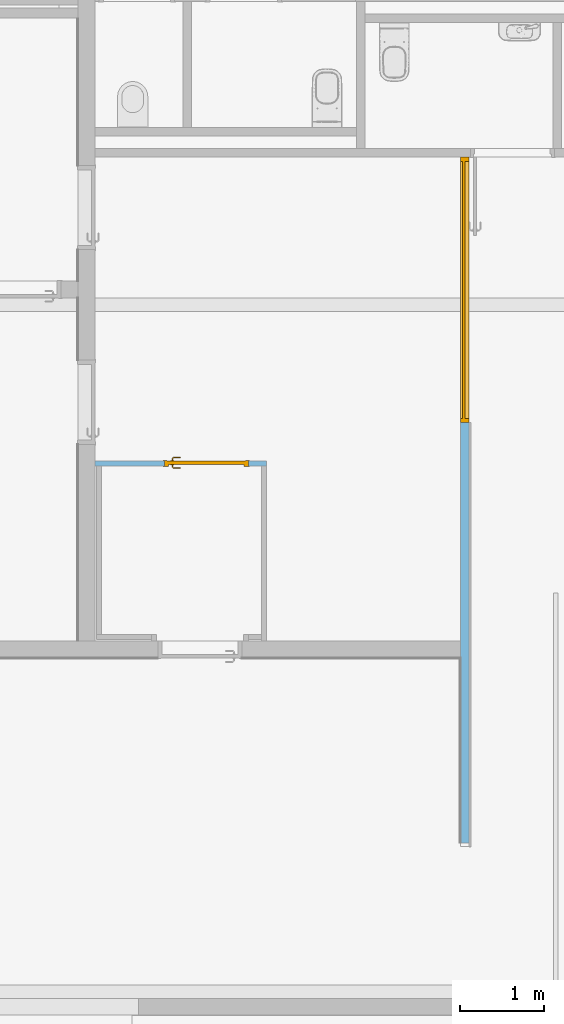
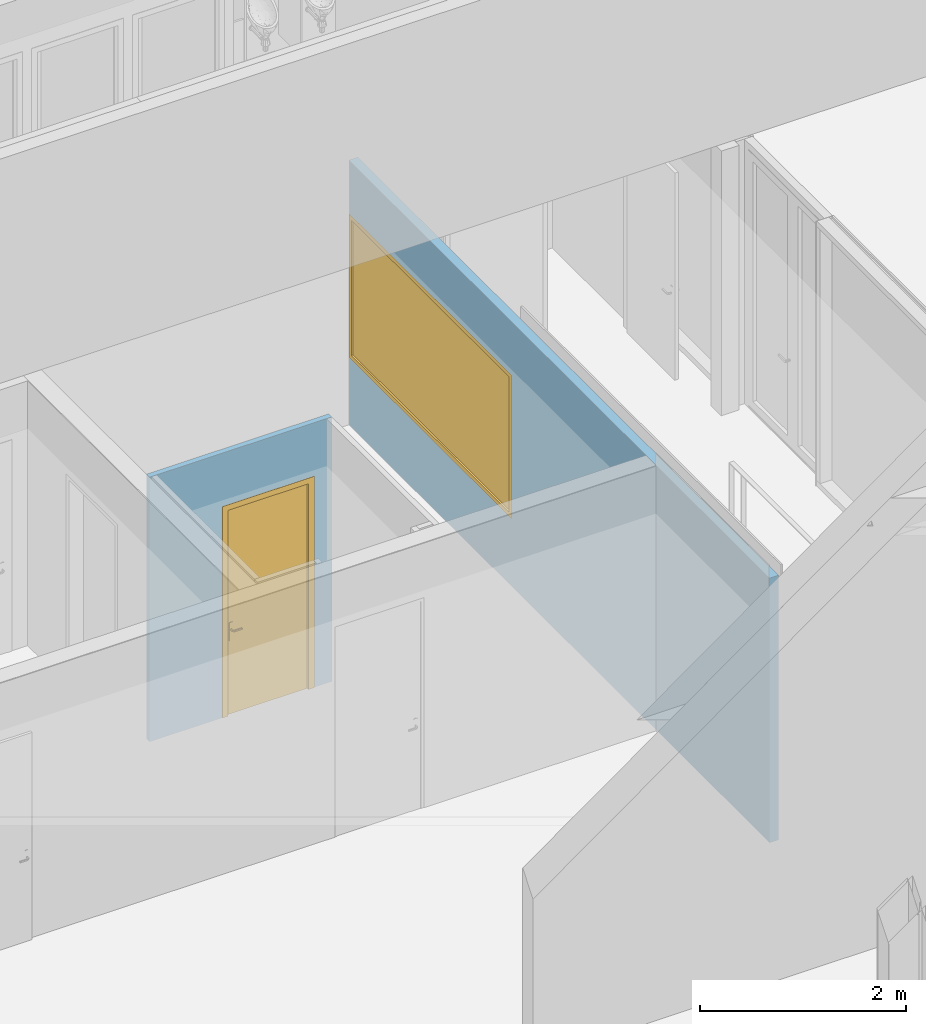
# One storey, part 191 of 240: 1 door, 1 window, 2 openings, plus 2 elements that do not belong to this part.
"""IFC2X3 building model written with IfcOpenShell, lengths in centimetres."""

from ifc_helpers import new_model, entity, si_unit, converted_unit, derived_unit, direction, frame, frame_2d, origin, place, context, subcontext, project, spatial, rectangle, extrude, faceted_brep, source, transform, mapped, material, material_list, layer, layer_set, layer_usage, type_object, type_shapes, element, fill, save


model = new_model("IFC2X3")

# Units and contexts
model_context = context("Model", 3, precision=0.001, world=origin(), true_north=direction((6.12303176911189e-17, 1.0)))
body_context = subcontext(model_context, "Body", "Model", "MODEL_VIEW")
ifc_project = project(units=[si_unit("LENGTHUNIT", "METRE", prefix="CENTI"), si_unit("AREAUNIT", "SQUARE_METRE"), si_unit("VOLUMEUNIT", "CUBIC_METRE"), converted_unit("PLANEANGLEUNIT", "DEGREE", entity("IfcRatioMeasure", 0.0174532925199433), si_unit("PLANEANGLEUNIT", "RADIAN"), dimensions=[0, 0, 0, 0, 0, 0, 0]), si_unit("MASSUNIT", "GRAM", prefix="KILO"), derived_unit("MASSDENSITYUNIT", [(si_unit("MASSUNIT", "GRAM", prefix="KILO"), 1), (si_unit("LENGTHUNIT", "METRE"), -3)]), si_unit("TIMEUNIT", "SECOND"), si_unit("FREQUENCYUNIT", "HERTZ"), si_unit("THERMODYNAMICTEMPERATUREUNIT", "DEGREE_CELSIUS"), derived_unit("THERMALTRANSMITTANCEUNIT", [(si_unit("MASSUNIT", "GRAM", prefix="KILO"), 1), (si_unit("THERMODYNAMICTEMPERATUREUNIT", "KELVIN"), -1), (si_unit("TIMEUNIT", "SECOND"), -3)]), derived_unit("VOLUMETRICFLOWRATEUNIT", [(si_unit("LENGTHUNIT", "METRE"), 3), (si_unit("TIMEUNIT", "SECOND"), -1)]), si_unit("ELECTRICCURRENTUNIT", "AMPERE"), si_unit("ELECTRICVOLTAGEUNIT", "VOLT"), si_unit("POWERUNIT", "WATT"), si_unit("FORCEUNIT", "NEWTON", prefix="KILO"), si_unit("ILLUMINANCEUNIT", "LUX"), si_unit("LUMINOUSFLUXUNIT", "LUMEN"), si_unit("LUMINOUSINTENSITYUNIT", "CANDELA"), derived_unit("USERDEFINED", [(si_unit("MASSUNIT", "GRAM", prefix="KILO"), -1), (si_unit("LENGTHUNIT", "METRE"), -2), (si_unit("TIMEUNIT", "SECOND"), 3), (si_unit("LUMINOUSFLUXUNIT", "LUMEN"), 1)]), derived_unit("LINEARVELOCITYUNIT", [(si_unit("LENGTHUNIT", "METRE"), 1), (si_unit("TIMEUNIT", "SECOND"), -1)]), si_unit("PRESSUREUNIT", "PASCAL"), derived_unit("USERDEFINED", [(si_unit("LENGTHUNIT", "METRE"), -2), (si_unit("MASSUNIT", "GRAM", prefix="KILO"), 1), (si_unit("TIMEUNIT", "SECOND"), -2)])], contexts=[model_context])

# Site, building, storey
site_placement = place(None, frame((-2781.94577612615, 7442.24238424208, 0.0)))
site = spatial("IfcSite", under=ifc_project, at=site_placement, Name="Default", CompositionType="ELEMENT")
building_placement = place(site_placement, origin())
building = spatial("IfcBuilding", under=site, at=building_placement, CompositionType="ELEMENT")
storey_placement = place(building_placement, origin())
storey = spatial("IfcBuildingStorey", under=building, at=storey_placement, Name="N00 - COO", CompositionType="ELEMENT", Elevation=0.0)

# Wall, opening, window
ifc_material_1 = material(Name="01 - Enduit/Plâtre")
ifc_layer_1 = layer(ifc_material_1, 1.3)
ifc_material_2 = material(Name="00 - Isolant")
ifc_layer_2 = layer(ifc_material_2, 7.4)
ifc_layer_3 = layer(ifc_material_1, 1.3)
ifc_layer_set_1 = layer_set([ifc_layer_1, ifc_layer_2, ifc_layer_3], Name="Mur de base:06 - cloisons - Ba13 10cm")
ifc_layer_usage_1 = layer_usage(ifc_layer_set_1, "AXIS2", "NEGATIVE", 5.0)
wall_type_1 = type_object("IfcWallType", Name="Mur de base:06 - cloisons - Ba13 10cm", PredefinedType="STANDARD", material=ifc_layer_set_1)
wall_1_placement = place(building_placement, frame((-9236.932180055, -3205.07903364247, 0.0), z_axis=(0.0, 0.0, 1.0), x_axis=(0.0, -1.0, 0.0)))
wall_1 = element("IfcWallStandardCase", 1, at=wall_1_placement, inside=storey, type_object=wall_type_1, material=ifc_layer_usage_1, Name="Mur de base:06 - cloisons - Ba13 10cm", ObjectType="Mur de base:06 - cloisons - Ba13 10cm", context=body_context, shape_type="SweptSolid", body=[
    extrude(rectangle(XDim=815.500000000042, YDim=10.0000000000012, at=frame_2d((407.750000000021, -5.32907051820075e-15), x_axis=(-1.0, 0.0))), origin(), (0.0, 0.0, 1.0), 313.0),
])
opening_1_placement = place(wall_1_placement, frame((0.0, -5.0, 80.0)))
opening_1 = element("IfcOpeningElement", 2, at=opening_1_placement, cuts=wall_1, Name="châssis intérieur vitré:châssis intérieur vitré self  (h=2.22) 2:1", ObjectType="Opening", context=body_context, shape_type="SweptSolid", body=[
    extrude(rectangle(XDim=170.0, YDim=315.692772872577, at=frame_2d((84.9999999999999, 157.846386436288), x_axis=(1.0, 0.0))), frame((0.0, 0.0, 0.0), z_axis=(0.0, 1.0, 0.0), x_axis=(0.0, 0.0, 1.0)), (0.0, 0.0, 1.0), 10.0),
])
ifc_material_3 = material(Name="Verre")
ifc_material_4 = material(Name="huisserie bois")
ifc_material_list_1 = material_list([ifc_material_3, ifc_material_4])
ifc_material_list_2 = material_list([ifc_material_3, ifc_material_4])
window_style = type_object("IfcWindowStyle", Name="châssis intérieur vitré self  (h=2.22) 2", ConstructionType="NOTDEFINED", OperationType="NOTDEFINED", ParameterTakesPrecedence=False, Sizeable=False, material=ifc_material_list_2)
shared_shape_1 = source(origin(), body_context, "Body", "Brep", [
    faceted_brep([(312.692772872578, 5.0, 167.0), (312.692772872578, 5.0, 3.0), (3.0, 5.0, 3.0), (3.0, 5.0, 167.0), (312.692772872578, 2.0, 167.0), (312.692772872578, 2.0, 3.0), (3.0, 2.0, 3.0), (3.0, 2.0, 167.0)], [[[0, 1, 2, 3]], [[1, 0, 4, 5]], [[2, 1, 5, 6]], [[3, 2, 6, 7]], [[4, 7, 6, 5]], [[0, 3, 7, 4]]]),
    faceted_brep([(312.692772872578, 2.0, 167.0), (312.692772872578, 0.0, 167.0), (312.692772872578, 0.0, 3.0), (312.692772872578, 2.0, 3.0), (310.692772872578, 0.0, 5.0), (5.0, 0.0, 5.0), (5.0, 0.0, 165.0), (310.692772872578, 0.0, 165.0), (3.0, 0.0, 167.0), (3.0, 0.0, 3.0), (3.0, 2.0, 3.0), (3.0, 2.0, 167.0), (310.692772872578, 2.0, 165.0), (5.0, 2.0, 165.0), (5.0, 2.0, 5.0), (310.692772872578, 2.0, 5.0)], [[[0, 1, 2, 3]], [[4, 5, 6, 7], [1, 8, 9, 2]], [[3, 2, 9, 10]], [[3, 10, 11, 0], [12, 13, 14, 15]], [[7, 12, 15, 4]], [[4, 15, 14, 5]], [[10, 9, 8, 11]], [[5, 14, 13, 6]], [[11, 8, 1, 0]], [[6, 13, 12, 7]]], outer=[[True], [False, True], [True], [True, False], [True], [True], [True], [True], [True], [True]]),
    faceted_brep([(310.692772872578, 5.0, 165.0), (310.692772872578, 10.0, 165.0), (310.692772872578, 10.0, 5.0), (310.692772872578, 5.0, 5.0), (315.692772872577, 10.0, 0.0), (0.0, 10.0, 0.0), (0.0, 10.0, 170.0), (315.692772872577, 10.0, 170.0), (5.0, 10.0, 165.0), (5.0, 10.0, 5.0), (5.0, 5.0, 5.0), (5.0, 5.0, 165.0), (312.692772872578, 5.0, 167.0), (3.0, 5.0, 167.0), (3.0, 5.0, 3.0), (312.692772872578, 5.0, 3.0), (312.692772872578, 0.0, 167.0), (312.692772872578, 0.0, 3.0), (3.0, 0.0, 3.0), (3.0, 0.0, 167.0), (315.692772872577, 0.0, 170.0), (0.0, 0.0, 170.0), (0.0, 0.0, 0.0), (315.692772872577, 0.0, 0.0)], [[[0, 1, 2, 3]], [[4, 5, 6, 7], [1, 8, 9, 2]], [[3, 2, 9, 10]], [[3, 10, 11, 0], [12, 13, 14, 15]], [[16, 12, 15, 17]], [[17, 15, 14, 18]], [[17, 18, 19, 16], [20, 21, 22, 23]], [[7, 20, 23, 4]], [[4, 23, 22, 5]], [[10, 9, 8, 11]], [[18, 14, 13, 19]], [[5, 22, 21, 6]], [[11, 8, 1, 0]], [[19, 13, 12, 16]], [[6, 21, 20, 7]]], outer=[[True], [True, False], [True], [False, True], [True], [True], [False, True], [True], [True], [True], [True], [True], [True], [True], [True]]),
])
type_shapes(window_style, [shared_shape_1])
window_placement = place(opening_1_placement, origin())
window = element("IfcWindow", 3, at=window_placement, inside=storey, type_object=window_style, material=ifc_material_list_1, Name="châssis intérieur vitré:châssis intérieur vitré self  (h=2.22) 2", ObjectType="châssis intérieur vitré:châssis intérieur vitré self  (h=2.22) 2", OverallHeight=170.0, OverallWidth=315.692772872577, context=body_context, shape_type="MappedRepresentation", body=[
    mapped(shared_shape_1, transform((0.0, 0.0, 0.0), scale=1.0)),
])
fill(opening_1, window)

# Wall, opening, door
ifc_material_5 = material(Name="Plastique, blanc opaque")
ifc_layer_4 = layer(ifc_material_5, 0.2)
ifc_material_6 = material(Name="00 - Isolant cloison Frigo")
ifc_layer_5 = layer(ifc_material_6, 5.6)
ifc_layer_6 = layer(ifc_material_5, 0.2)
ifc_layer_set_2 = layer_set([ifc_layer_4, ifc_layer_5, ifc_layer_6], Name="Mur de base:06 - cloisons - cuisine 6cm")
ifc_layer_usage_2 = layer_usage(ifc_layer_set_2, "AXIS2", "NEGATIVE", 3.0)
wall_type_2 = type_object("IfcWallType", Name="Mur de base:06 - cloisons - cuisine 6cm", PredefinedType="STANDARD", material=ifc_layer_set_2)
wall_2_placement = place(building_placement, frame((-9677.0, -3569.51217637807, 0.0)))
wall_2 = element("IfcWallStandardCase", 4, at=wall_2_placement, inside=storey, type_object=wall_type_2, material=ifc_layer_usage_2, Name="Mur de base:06 - cloisons - cuisine 6cm", ObjectType="Mur de base:06 - cloisons - cuisine 6cm", context=body_context, shape_type="SweptSolid", body=[
    extrude(rectangle(XDim=203.974749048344, YDim=6.00000000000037, at=frame_2d((101.987374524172, -8.79296635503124e-14), x_axis=(-1.0, 0.0))), origin(), (0.0, 0.0, 1.0), 313.0),
])
opening_2_placement = place(wall_2_placement, frame((82.5824443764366, -3.0, 0.0)))
opening_2 = element("IfcOpeningElement", 5, at=opening_2_placement, cuts=wall_2, Name="Int. Simple:PP simple (0.93m x 2.50m):1", ObjectType="Opening", context=body_context, shape_type="SweptSolid", body=[
    extrude(rectangle(XDim=248.500000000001, YDim=99.9999999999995, at=frame_2d((124.250000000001, 49.9999999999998), x_axis=(1.0, 0.0))), frame((0.0, 0.0, 0.0), z_axis=(0.0, 1.0, 0.0), x_axis=(0.0, 0.0, 1.0)), (0.0, 0.0, 1.0), 6.0),
])
ifc_material_7 = material(Name="Finition Peinture - Blanc satiné")
ifc_material_8 = material(Name="Bois - Panneau de porte")
ifc_material_9 = material(Name="Bois - Cadre de porte")
ifc_material_list_3 = material_list([ifc_material_7, ifc_material_8, ifc_material_9])
ifc_material_list_4 = material_list([ifc_material_7, ifc_material_8, ifc_material_9])
door_style = type_object("IfcDoorStyle", Name="PP simple (0.93m x 2.50m)", ConstructionType="NOTDEFINED", OperationType="SINGLE_SWING_RIGHT", ParameterTakesPrecedence=False, Sizeable=False, material=ifc_material_list_4)
shared_shape_2 = source(origin(), body_context, "Body", "Brep", [
    faceted_brep([(99.5000000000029, -0.500000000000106, 87.0), (99.5000000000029, -0.500000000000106, 108.0), (98.535276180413, -0.500000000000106, 108.399601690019), (97.5000000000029, -0.500000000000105, 108.535898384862), (96.4647238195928, -0.500000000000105, 108.399601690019), (95.500000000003, -0.500000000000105, 108.0), (95.5000000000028, -0.500000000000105, 87.0), (96.4647238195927, -0.500000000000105, 86.6003983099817), (97.5000000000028, -0.500000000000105, 86.464101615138), (98.5352761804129, -0.500000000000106, 86.6003983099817), (99.5000000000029, 0.0, 108.0), (99.5000000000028, 0.0, 87.0), (98.5352761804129, 0.0, 86.6003983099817), (97.5000000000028, 0.0, 86.464101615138), (96.4647238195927, 0.0, 86.6003983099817), (95.5000000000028, 0.0, 87.0), (95.5000000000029, 0.0, 108.0), (96.4647238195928, 0.0, 108.399601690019), (97.5000000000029, 0.0, 108.535898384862), (98.535276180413, 0.0, 108.399601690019)], [[[0, 1, 2, 3, 4, 5, 6, 7, 8, 9]], [[10, 11, 12, 13, 14, 15, 16, 17, 18, 19]], [[9, 12, 11, 0]], [[8, 13, 12, 9]], [[7, 14, 13, 8]], [[7, 6, 15, 14]], [[15, 6, 5, 16]], [[4, 17, 16, 5]], [[3, 18, 17, 4]], [[2, 19, 18, 3]], [[2, 1, 10, 19]], [[11, 10, 1, 0]]]),
    faceted_brep([(99.5000000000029, 4.0, 87.0), (99.5000000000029, 4.0, 108.0), (98.535276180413, 4.0, 108.399601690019), (97.5000000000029, 4.0, 108.535898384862), (96.4647238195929, 4.0, 108.399601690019), (95.500000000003, 4.0, 108.0), (95.5000000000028, 4.0, 87.0), (96.4647238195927, 4.0, 86.6003983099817), (97.5000000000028, 4.0, 86.464101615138), (98.5352761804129, 4.0, 86.6003983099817), (97.5000000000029, 4.49999999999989, 108.535898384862), (98.535276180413, 4.49999999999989, 108.399601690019), (99.5000000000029, 4.49999999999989, 108.0), (99.5000000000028, 4.49999999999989, 87.0), (98.5352761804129, 4.49999999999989, 86.6003983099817), (97.5000000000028, 4.49999999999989, 86.464101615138), (96.4647238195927, 4.49999999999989, 86.6003983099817), (95.5000000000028, 4.49999999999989, 87.0), (95.500000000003, 4.49999999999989, 108.0), (96.4647238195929, 4.49999999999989, 108.399601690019)], [[[0, 1, 2, 3, 4, 5, 6, 7, 8, 9]], [[10, 11, 12, 13, 14, 15, 16, 17, 18, 19]], [[4, 19, 18, 5]], [[3, 10, 19, 4]], [[2, 11, 10, 3]], [[2, 1, 12, 11]], [[13, 12, 1, 0]], [[9, 14, 13, 0]], [[8, 15, 14, 9]], [[7, 16, 15, 8]], [[7, 6, 17, 16]], [[17, 6, 5, 18]]]),
    faceted_brep([(97.2974701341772, -0.50000000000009, 100.778044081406), (97.7025298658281, -0.500000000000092, 100.778044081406), (98.1000000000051, -0.500000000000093, 100.699999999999), (98.100000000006, -0.500000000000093, 99.2999999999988), (97.7025298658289, -0.500000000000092, 99.221955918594), (97.297470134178, -0.50000000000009, 99.2219559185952), (96.9000000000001, -0.500000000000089, 99.3000000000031), (96.9000000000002, -0.500000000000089, 100.7), (97.7025298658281, -3.10045754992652, 100.778044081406), (98.1000000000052, -3.26509507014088, 100.7), (97.2974701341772, -2.93267631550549, 100.778044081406), (95.9298602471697, -4.30028620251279, 100.778044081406), (96.0976414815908, -4.70534593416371, 100.778044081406), (96.9000000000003, -2.76803879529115, 100.7), (96.9000000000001, -2.76803879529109, 99.3000000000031), (97.297470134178, -2.93267631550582, 99.2219559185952), (97.7025298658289, -3.10045754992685, 99.221955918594), (96.0976414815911, -4.70534593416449, 99.221955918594), (95.9298602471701, -4.30028620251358, 99.2219559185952), (98.100000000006, -3.26509507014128, 99.2999999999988), (96.2622790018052, -5.10281606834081, 100.7), (95.7652227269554, -3.90281606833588, 100.7), (95.7652227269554, -3.90281606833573, 99.3000000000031), (96.2622790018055, -5.10281606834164, 99.2999999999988), (87.4981359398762, -5.10281606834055, 100.7), (87.4981359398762, -4.70534593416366, 100.778044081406), (87.4981359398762, -4.30028620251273, 100.778044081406), (87.4981359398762, -3.90281606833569, 100.699999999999), (87.4981359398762, -3.90281606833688, 99.3000000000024), (87.4981359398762, -4.30028620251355, 99.2219559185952), (87.4981359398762, -4.70534593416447, 99.221955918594), (87.4981359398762, -5.10281606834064, 99.2999999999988), (91.7139980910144, -4.5028160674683, 100.78786867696), (92.2692302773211, -5.1028160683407, 100.7), (91.6316793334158, -3.9028160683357, 100.7), (91.631679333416, -3.90281606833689, 99.3000000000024), (91.7139981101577, -4.50281607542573, 99.2121313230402), (92.2692310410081, -5.10281606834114, 99.2999999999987)], [[[0, 1, 2, 3, 4, 5, 6, 7]], [[2, 1, 8, 9]], [[1, 0, 10, 11, 12, 8]], [[0, 7, 13, 10]], [[14, 13, 7, 6]], [[5, 15, 14, 6]], [[5, 4, 16, 17, 18, 15]], [[3, 19, 16, 4]], [[9, 19, 3, 2]], [[9, 8, 12, 20]], [[10, 13, 21, 11]], [[22, 21, 13, 14]], [[14, 15, 18, 22]], [[16, 19, 23, 17]], [[20, 23, 19, 9]], [[24, 25, 26, 27, 28, 29, 30, 31]], [[32, 25, 33]], [[33, 25, 24]], [[33, 20, 12]], [[11, 34, 32]], [[34, 11, 21]], [[27, 26, 34]], [[32, 26, 25]], [[32, 34, 26]], [[32, 33, 12]], [[11, 32, 12]], [[21, 22, 35, 28, 27, 34]], [[36, 29, 35]], [[30, 36, 37]], [[18, 35, 22]], [[29, 28, 35]], [[30, 37, 31]], [[37, 17, 23]], [[36, 17, 37]], [[36, 18, 17]], [[36, 35, 18]], [[29, 36, 30]], [[23, 20, 33, 24, 31, 37]]]),
    faceted_brep([(97.2974701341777, 4.49999999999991, 99.2219559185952), (97.7025298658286, 4.49999999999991, 99.221955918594), (98.1000000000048, 4.4999999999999, 99.2999999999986), (98.1000000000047, 4.4999999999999, 100.7), (97.7025298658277, 4.49999999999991, 100.778044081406), (97.2974701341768, 4.49999999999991, 100.778044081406), (96.8999999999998, 4.49999999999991, 100.7), (96.900000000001, 4.49999999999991, 99.3000000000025), (96.8999999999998, 6.7485204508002, 100.7), (96.8999999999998, 6.74852045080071, 99.3000000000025), (97.2974701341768, 6.91315797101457, 100.778044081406), (97.7025298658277, 7.0809392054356, 100.778044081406), (96.0838906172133, 8.69957845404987, 100.778044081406), (95.9161093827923, 8.29451872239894, 100.778044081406), (98.1000000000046, 7.24557672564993, 100.7), (98.1000000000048, 7.24557672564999, 99.2999999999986), (97.7025298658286, 7.08093920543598, 99.221955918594), (97.2974701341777, 6.91315797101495, 99.2219559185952), (95.9161093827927, 8.29451872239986, 99.2219559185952), (96.0838906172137, 8.69957845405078, 99.221955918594), (95.751471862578, 7.89704858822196, 100.7), (95.7514718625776, 7.89704858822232, 99.3000000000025), (96.2485281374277, 9.09704858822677, 100.7), (96.2485281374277, 9.09704858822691, 99.2999999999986), (87.4954216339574, 8.29451872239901, 100.778044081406), (87.4954216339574, 8.69957845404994, 100.778044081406), (87.4954216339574, 9.09704858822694, 100.7), (87.4954216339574, 9.09704858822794, 99.2999999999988), (87.4954216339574, 8.6995784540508, 99.221955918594), (87.4954216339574, 8.29451872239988, 99.2219559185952), (87.4954216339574, 7.89704858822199, 99.3000000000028), (87.4954216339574, 7.89704858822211, 100.7), (91.6234467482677, 7.89704858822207, 100.7), (91.6234479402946, 7.89704858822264, 99.3000000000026), (91.7057655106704, 8.49704858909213, 100.78786867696), (92.255479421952, 9.09704858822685, 100.7), (92.2554795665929, 9.09704858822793, 99.2999999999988), (91.7057654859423, 8.49704858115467, 99.2121313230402)], [[[0, 1, 2, 3, 4, 5, 6, 7]], [[8, 9, 7, 6]], [[5, 10, 8, 6]], [[5, 4, 11, 12, 13, 10]], [[3, 14, 11, 4]], [[14, 3, 2, 15]], [[2, 1, 16, 15]], [[1, 0, 17, 18, 19, 16]], [[0, 7, 9, 17]], [[20, 21, 9, 8]], [[8, 10, 13, 20]], [[14, 22, 12, 11]], [[23, 22, 14, 15]], [[15, 16, 19, 23]], [[17, 9, 21, 18]], [[24, 25, 26, 27, 28, 29, 30, 31]], [[21, 20, 32, 31, 30, 33]], [[34, 24, 32]], [[25, 34, 35]], [[13, 32, 20]], [[24, 31, 32]], [[25, 35, 26]], [[35, 12, 22]], [[34, 12, 35]], [[34, 13, 12]], [[34, 32, 13]], [[24, 34, 25]], [[22, 23, 36, 27, 26, 35]], [[37, 28, 36]], [[36, 28, 27]], [[36, 23, 19]], [[18, 33, 37]], [[33, 18, 21]], [[30, 29, 33]], [[37, 29, 28]], [[37, 33, 29]], [[37, 36, 19]], [[18, 37, 19]]]),
    faceted_brep([(103.500000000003, 4.0, 245.0), (103.500000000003, 4.0, 0.0), (10.5000000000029, 4.0, 0.0), (10.5000000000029, 4.0, 245.0), (103.500000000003, 0.0, 245.0), (10.5000000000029, 0.0, 245.0), (10.5000000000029, 0.0, 0.0), (103.500000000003, 0.0, 0.0)], [[[0, 1, 2, 3]], [[4, 5, 6, 7]], [[3, 5, 4, 0]], [[2, 6, 5, 3]], [[1, 7, 6, 2]], [[0, 4, 7, 1]]]),
    faceted_brep([(107.0, 6.0, 0.0), (107.0, 0.0, 0.0), (108.500000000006, 0.0, 0.0), (108.500000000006, -0.500000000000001, 0.0), (103.500000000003, -0.500000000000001, 0.0), (103.500000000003, 4.0, 0.0), (102.0, 4.0, 0.0), (102.0, 6.5000000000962, 0.0), (108.500000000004, 6.5000000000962, 0.0), (108.500000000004, 6.0, 0.0), (107.0, 6.0, 248.500000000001), (107.0, 0.0, 248.500000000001), (108.500000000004, 6.0, 250.0), (5.50000000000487, 6.0, 250.0), (5.50000000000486, 6.0, 0.0), (7.0, 6.0, 0.0), (7.0, 6.0, 248.500000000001), (102.0, 4.0, 243.5), (102.0, 6.5000000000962, 243.5), (103.500000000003, 4.0, 245.0), (10.5000000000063, 4.0, 245.0), (10.5000000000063, 4.0, 0.0), (12.0, 4.0, 0.0), (12.0, 4.0, 243.5), (7.0, 0.0, 0.0), (7.0, 0.0, 248.500000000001), (5.50000000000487, 6.5000000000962, 0.0), (12.0, 6.5000000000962, 0.0), (10.5000000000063, -0.500000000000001, 0.0), (5.5000000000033, -0.500000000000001, 0.0), (5.5000000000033, 0.0, 0.0), (12.0, 6.5000000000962, 243.5), (103.500000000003, -0.500000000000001, 245.0), (108.500000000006, -0.500000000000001, 250.0), (5.5000000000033, -0.500000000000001, 250.0), (10.5000000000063, -0.500000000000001, 245.0), (108.500000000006, 0.0, 250.0), (5.50000000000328, 0.0, 250.0), (108.500000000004, 6.5000000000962, 250.0), (5.50000000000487, 6.5000000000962, 250.0)], [[[0, 1, 2, 3, 4, 5, 6, 7, 8, 9]], [[0, 10, 11, 1]], [[9, 12, 13, 14, 15, 16, 10, 0]], [[7, 6, 17, 18]], [[5, 19, 20, 21, 22, 23, 17, 6]], [[16, 15, 24, 25]], [[15, 14, 26, 27, 22, 21, 28, 29, 30, 24]], [[23, 22, 27, 31]], [[10, 16, 25, 11]], [[17, 23, 31, 18]], [[5, 4, 32, 19]], [[3, 33, 34, 29, 28, 35, 32, 4]], [[2, 36, 33, 3]], [[1, 11, 25, 24, 30, 37, 36, 2]], [[8, 38, 12, 9]], [[7, 18, 31, 27, 26, 39, 38, 8]], [[35, 28, 21, 20]], [[37, 30, 29, 34]], [[39, 26, 14, 13]], [[32, 35, 20, 19]], [[36, 37, 34, 33]], [[38, 39, 13, 12]]]),
])
type_shapes(door_style, [shared_shape_2])
door_placement = place(opening_2_placement, frame((107.0, 6.0, 0.0), z_axis=(0.0, 0.0, 1.0), x_axis=(-1.0, 0.0, 0.0)))
door = element("IfcDoor", 6, at=door_placement, inside=storey, type_object=door_style, material=ifc_material_list_3, Name="Int. Simple:PP simple (0.93m x 2.50m)", ObjectType="Int. Simple:PP simple (0.93m x 2.50m)", OverallHeight=248.500000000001, OverallWidth=99.9999999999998, context=body_context, shape_type="MappedRepresentation", body=[
    mapped(shared_shape_2, transform((0.0, 0.0, 0.0), scale=1.0)),
])
fill(opening_2, door)

save(model, "model.ifc")
